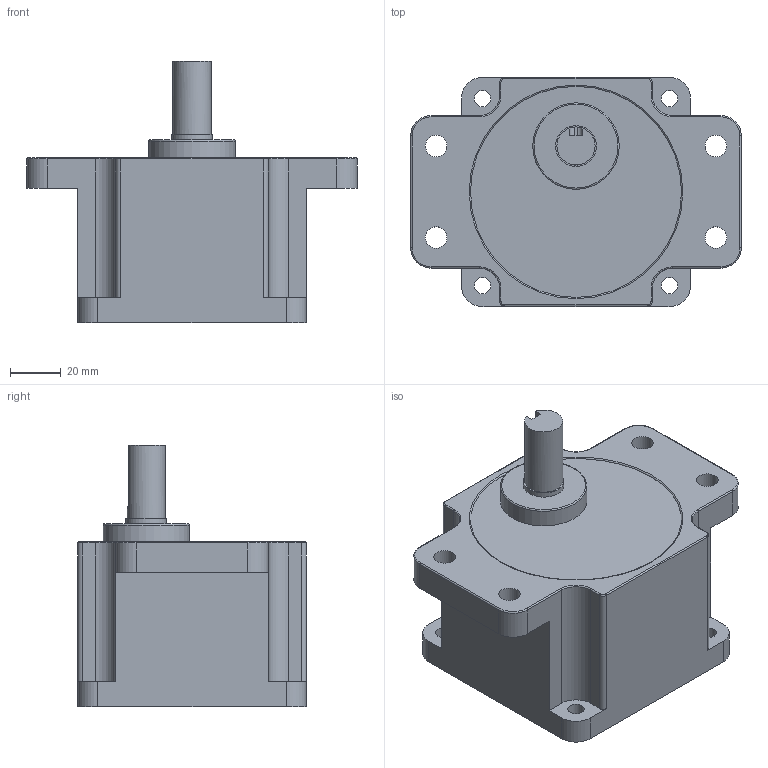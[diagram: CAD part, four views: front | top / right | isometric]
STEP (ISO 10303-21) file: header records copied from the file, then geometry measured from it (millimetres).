
FILE_DESCRIPTION((''),'2;1');
FILE_NAME('E:\2공장-도면\3D\표준형 3D(민규)\step file\감속기\K9PㅁBF.stp','2014-11-21T17:09:32',('AHN'),(''),'Autodesk Inventor 2012','Autodesk Inventor 2012','');
FILE_SCHEMA(('CONFIG_CONTROL_DESIGN'));
Length unit declared in the file: millimetre
Products named in the file (1): K9PㅁBF
Bounding box: 130 x 90 x 103 mm (x, y, z)
Volume: 512556.8 mm3; surface area: 47647.5 mm2
Topology: 1 solids, 1 shells, 85 faces, 212 edges, 133 vertices
Faces by surface type: cylinder 41, plane 30, torus 14
Full cylindrical faces by diameter (mm): 6.5 x4, 8.5 x4, 15 x1, 16 x1, 34 x1
Entity records: 2540 total; most frequent: DIRECTION 464, CARTESIAN_POINT 434, ORIENTED_EDGE 396, EDGE_CURVE 198, AXIS2_PLACEMENT_3D 182, VERTEX_POINT 132, EDGE_LOOP 118, VECTOR 100
